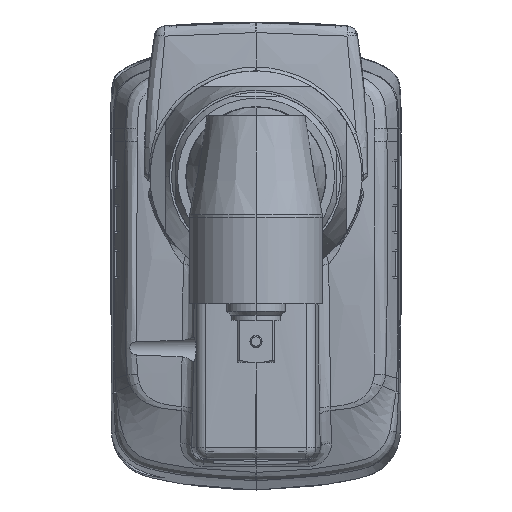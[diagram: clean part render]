
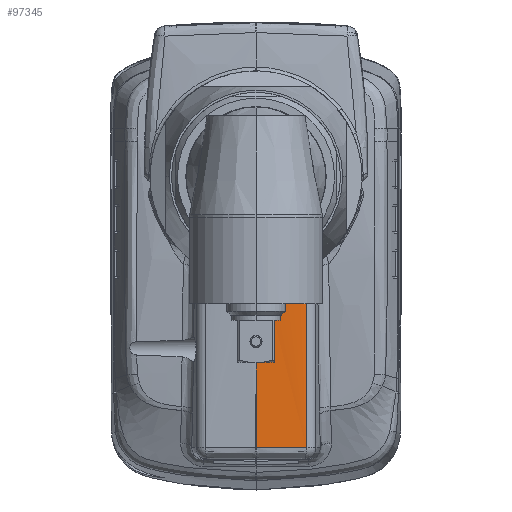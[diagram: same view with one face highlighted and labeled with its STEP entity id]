
A CAD part, front view. The second image highlights one B-rep face of the part: STEP entity #97345.
In plain terms, the highlighted free-form (B-spline) face has degree [3, 1] with [4, 2] control points.
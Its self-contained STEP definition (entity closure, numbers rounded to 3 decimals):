
#775 = CARTESIAN_POINT ( 'NONE',  ( 10.897, 299.493, -20.858 ) ) ;
#1431 = CARTESIAN_POINT ( 'NONE',  ( 9.867, 299.398, -21.761 ) ) ;
#2763 = CARTESIAN_POINT ( 'NONE',  ( 11.186, 299.523, -20.577 ) ) ;
#3408 = CARTESIAN_POINT ( 'NONE',  ( 7.821, 299.247, -23.204 ) ) ;
#3901 = B_SPLINE_CURVE_WITH_KNOTS ( 'NONE', 3,
 ( #88818, #48790, #38151, #130120, #89470, #109489, #58811, #8126, #38820, #120111, #92110, #22761, #51447, #2763, #775, #82736, #112763, #124726, #125386, #1431, #124074, #52765, #42106, #11417, #123396, #23423, #32079, #82084, #13405, #52090, #3408, #64075, #72757, #43422, #93422, #33411, #62096, #54097 ),
 .UNSPECIFIED., .F., .F.,
 ( 4, 2, 2, 1, 1, 1, 1, 2, 2, 2, 2, 1, 1, 1, 2, 2, 2, 1, 1, 1, 1, 1, 2, 2, 4 ),
 ( 0., 0.125, 0.188, 0.219, 0.234, 0.242, 0.246, 0.248, 0.25, 0.375, 0.438, 0.469, 0.484, 0.492, 0.496, 0.5, 0.625, 0.688, 0.719, 0.734, 0.742, 0.746, 0.748, 0.75, 1. ),
 .UNSPECIFIED. ) ;
#4042 = ORIENTED_EDGE ( 'NONE', *, *, #83632, .T. ) ;
#8126 = CARTESIAN_POINT ( 'NONE',  ( 11.57, 299.565, -20.178 ) ) ;
#9504 = CARTESIAN_POINT ( 'NONE',  ( 0., 299.02, -25.421 ) ) ;
#10183 = CARTESIAN_POINT ( 'NONE',  ( 9.616, 299.271, -69. ) ) ;
#11417 = CARTESIAN_POINT ( 'NONE',  ( 9.752, 299.388, -21.855 ) ) ;
#12313 = ORIENTED_EDGE ( 'NONE', *, *, #54096, .T. ) ;
#12445 = CARTESIAN_POINT ( 'NONE',  ( 12.836, 299.725, -69. ) ) ;
#13405 = CARTESIAN_POINT ( 'NONE',  ( 8.04, 299.261, -23.071 ) ) ;
#18833 = CARTESIAN_POINT ( 'NONE',  ( 3.525, 299.063, -24.997 ) ) ;
#19254 = ORIENTED_EDGE ( 'NONE', *, *, #44615, .F. ) ;
#22761 = CARTESIAN_POINT ( 'NONE',  ( 11.479, 299.555, -20.273 ) ) ;
#23423 = CARTESIAN_POINT ( 'NONE',  ( 9.082, 299.334, -22.374 ) ) ;
#23664 = VERTEX_POINT ( 'NONE', #120582 ) ;
#29105 = CARTESIAN_POINT ( 'NONE',  ( 12.836, 299.725, -69. ) ) ;
#32079 = CARTESIAN_POINT ( 'NONE',  ( 8.582, 299.298, -22.72 ) ) ;
#32452 = CARTESIAN_POINT ( 'NONE',  ( 12.836, 299.725, -18.403 ) ) ;
#33411 = CARTESIAN_POINT ( 'NONE',  ( 6.936, 299.193, -23.73 ) ) ;
#33522 = VERTEX_POINT ( 'NONE', #59500 ) ;
#33781 = FACE_OUTER_BOUND ( 'NONE', #110958, .T. ) ;
#34445 = CARTESIAN_POINT ( 'NONE',  ( 9.616, 299.271, -69. ) ) ;
#37164 = VERTEX_POINT ( 'NONE', #38981 ) ;
#38151 = CARTESIAN_POINT ( 'NONE',  ( 12.378, 299.663, -19.278 ) ) ;
#38783 = B_SPLINE_CURVE_WITH_KNOTS ( 'NONE', 1,
 ( #48952, #80286 ),
 .UNSPECIFIED., .F., .F.,
 ( 2, 2 ),
 ( 0., 1. ),
 .UNSPECIFIED. ) ;
#38820 = CARTESIAN_POINT ( 'NONE',  ( 11.521, 299.56, -20.229 ) ) ;
#38886 = CARTESIAN_POINT ( 'NONE',  ( 0., 299.02, -69. ) ) ;
#38981 = CARTESIAN_POINT ( 'NONE',  ( 12.836, 299.725, -18.705 ) ) ;
#42106 = CARTESIAN_POINT ( 'NONE',  ( 9.76, 299.389, -21.849 ) ) ;
#43422 = CARTESIAN_POINT ( 'NONE',  ( 7.758, 299.244, -23.242 ) ) ;
#44615 = EDGE_CURVE ( 'NONE', #91194, #23664, #38783, .T. ) ;
#47191 = CARTESIAN_POINT ( 'NONE',  ( 12.836, 299.725, -18.705 ) ) ;
#48790 = CARTESIAN_POINT ( 'NONE',  ( 12.608, 299.693, -18.999 ) ) ;
#48952 = CARTESIAN_POINT ( 'NONE',  ( 0., 299.02, -69. ) ) ;
#49526 = CARTESIAN_POINT ( 'NONE',  ( 3.083, 299.052, -25.099 ) ) ;
#50637 = VECTOR ( 'NONE', #108520, 1000. ) ;
#51447 = CARTESIAN_POINT ( 'NONE',  ( 11.477, 299.555, -20.275 ) ) ;
#52090 = CARTESIAN_POINT ( 'NONE',  ( 7.894, 299.252, -23.16 ) ) ;
#52460 = CARTESIAN_POINT ( 'NONE',  ( 5.048, 299.02, -18.403 ) ) ;
#52765 = CARTESIAN_POINT ( 'NONE',  ( 9.778, 299.39, -21.834 ) ) ;
#53131 = CARTESIAN_POINT ( 'NONE',  ( 0., 299.02, -69. ) ) ;
#53570 = VERTEX_POINT ( 'NONE', #29105 ) ;
#54096 = EDGE_CURVE ( 'NONE', #37164, #33522, #3901, .T. ) ;
#54097 = CARTESIAN_POINT ( 'NONE',  ( 5.27, 299.119, -24.445 ) ) ;
#58811 = CARTESIAN_POINT ( 'NONE',  ( 11.668, 299.577, -20.075 ) ) ;
#59500 = CARTESIAN_POINT ( 'NONE',  ( 5.27, 299.119, -24.445 ) ) ;
#62096 = CARTESIAN_POINT ( 'NONE',  ( 6.103, 299.152, -24.129 ) ) ;
#64075 = CARTESIAN_POINT ( 'NONE',  ( 7.784, 299.245, -23.226 ) ) ;
#64450 = CARTESIAN_POINT ( 'NONE',  ( 0., 299.02, -18.403 ) ) ;
#65899 = LINE ( 'NONE', #47191, #50637 ) ;
#68347 =( BOUNDED_CURVE ( )  B_SPLINE_CURVE ( 3, ( #38886, #112177, #10183, #89537 ),
 .UNSPECIFIED., .F., .F. ) 
 B_SPLINE_CURVE_WITH_KNOTS ( ( 4, 4 ),
 ( 0., 1. ),
 .UNSPECIFIED. ) 
 CURVE ( )  GEOMETRIC_REPRESENTATION_ITEM ( )  RATIONAL_B_SPLINE_CURVE ( ( 1., 0.937, 0.937, 1. ) ) 
 REPRESENTATION_ITEM ( '' )  );
#72757 = CARTESIAN_POINT ( 'NONE',  ( 7.769, 299.244, -23.236 ) ) ;
#74439 = CARTESIAN_POINT ( 'NONE',  ( 5.048, 299.02, -69. ) ) ;
#78213 = CARTESIAN_POINT ( 'NONE',  ( 4.838, 299.103, -24.609 ) ) ;
#79525 = CARTESIAN_POINT ( 'NONE',  ( 4.402, 299.088, -24.753 ) ) ;
#80286 = CARTESIAN_POINT ( 'NONE',  ( 0., 299.02, -25.421 ) ) ;
#82084 = CARTESIAN_POINT ( 'NONE',  ( 8.332, 299.28, -22.887 ) ) ;
#82736 = CARTESIAN_POINT ( 'NONE',  ( 10.463, 299.451, -21.254 ) ) ;
#83632 = EDGE_CURVE ( 'NONE', #33522, #23664, #107155, .T. ) ;
#86143 = ORIENTED_EDGE ( 'NONE', *, *, #104238, .F. ) ;
#86678 =( BOUNDED_SURFACE ( )  B_SPLINE_SURFACE ( 3, 1, ( 
 ( #64450, #53131 ),
 ( #52460, #74439 ),
 ( #94452, #34445 ),
 ( #32452, #12445 ) ),
 .UNSPECIFIED., .F., .F., .F. ) 
 B_SPLINE_SURFACE_WITH_KNOTS ( ( 4, 4 ),
 ( 2, 2 ),
 ( 0., 1. ),
 ( 0., 1. ),
 .UNSPECIFIED. ) 
 GEOMETRIC_REPRESENTATION_ITEM ( )  RATIONAL_B_SPLINE_SURFACE ( (
 ( 1., 1.),
 ( 0.937, 0.937),
 ( 0.937, 0.937),
 ( 1., 1.) ) ) 
 REPRESENTATION_ITEM ( '' )  SURFACE ( )  );
#88818 = CARTESIAN_POINT ( 'NONE',  ( 12.836, 299.725, -18.705 ) ) ;
#89470 = CARTESIAN_POINT ( 'NONE',  ( 11.922, 299.606, -19.799 ) ) ;
#89537 = CARTESIAN_POINT ( 'NONE',  ( 12.836, 299.725, -69. ) ) ;
#91194 = VERTEX_POINT ( 'NONE', #119940 ) ;
#92110 = CARTESIAN_POINT ( 'NONE',  ( 11.486, 299.556, -20.266 ) ) ;
#93422 = CARTESIAN_POINT ( 'NONE',  ( 7.754, 299.243, -23.244 ) ) ;
#94452 = CARTESIAN_POINT ( 'NONE',  ( 9.616, 299.271, -18.403 ) ) ;
#97345 = ADVANCED_FACE ( 'NONE', ( #33781 ), #86678, .F. ) ;
#100885 = CARTESIAN_POINT ( 'NONE',  ( 0.882, 299.02, -25.421 ) ) ;
#104238 = EDGE_CURVE ( 'NONE', #37164, #53570, #65899, .T. ) ;
#104437 = ORIENTED_EDGE ( 'NONE', *, *, #114186, .T. ) ;
#107155 = B_SPLINE_CURVE_WITH_KNOTS ( 'NONE', 3,
 ( #130178, #78213, #79525, #18833, #49526, #108893, #100885, #9504 ),
 .UNSPECIFIED., .F., .F.,
 ( 4, 2, 2, 4 ),
 ( 0., 0.25, 0.5, 1. ),
 .UNSPECIFIED. ) ;
#108520 = DIRECTION ( 'NONE',  ( 0., 0., -1. ) ) ;
#108893 = CARTESIAN_POINT ( 'NONE',  ( 1.77, 299.028, -25.34 ) ) ;
#109489 = CARTESIAN_POINT ( 'NONE',  ( 11.752, 299.586, -19.984 ) ) ;
#110958 = EDGE_LOOP ( 'NONE', ( #19254, #104437, #86143, #12313, #4042 ) ) ;
#112177 = CARTESIAN_POINT ( 'NONE',  ( 5.048, 299.02, -69. ) ) ;
#112763 = CARTESIAN_POINT ( 'NONE',  ( 10.318, 299.438, -21.381 ) ) ;
#114186 = EDGE_CURVE ( 'NONE', #91194, #53570, #68347, .T. ) ;
#119940 = CARTESIAN_POINT ( 'NONE',  ( 0., 299.02, -69. ) ) ;
#120111 = CARTESIAN_POINT ( 'NONE',  ( 11.497, 299.557, -20.255 ) ) ;
#120582 = CARTESIAN_POINT ( 'NONE',  ( 0., 299.02, -25.421 ) ) ;
#123396 = CARTESIAN_POINT ( 'NONE',  ( 9.413, 299.359, -22.127 ) ) ;
#124074 = CARTESIAN_POINT ( 'NONE',  ( 9.805, 299.392, -21.813 ) ) ;
#124726 = CARTESIAN_POINT ( 'NONE',  ( 10.101, 299.418, -21.567 ) ) ;
#125386 = CARTESIAN_POINT ( 'NONE',  ( 9.993, 299.409, -21.658 ) ) ;
#130120 = CARTESIAN_POINT ( 'NONE',  ( 12.035, 299.62, -19.672 ) ) ;
#130178 = CARTESIAN_POINT ( 'NONE',  ( 5.27, 299.119, -24.445 ) ) ;
